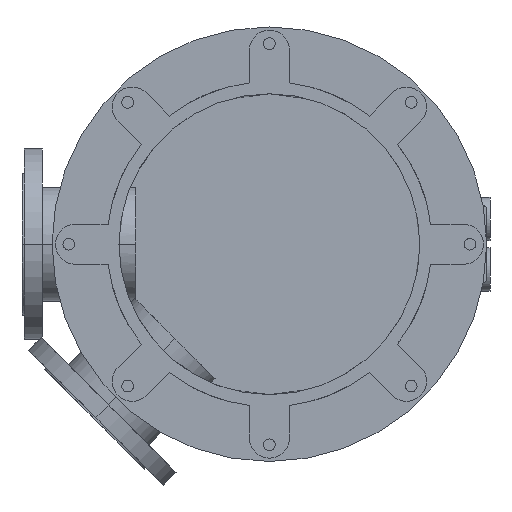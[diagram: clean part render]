
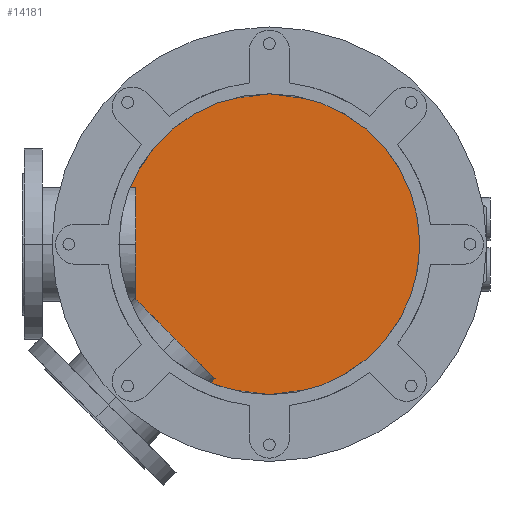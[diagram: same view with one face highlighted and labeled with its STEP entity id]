
A CAD part, front view. The second image highlights one B-rep face of the part: STEP entity #14181.
In plain terms, the highlighted planar face has unit normal (0, -1, 0).
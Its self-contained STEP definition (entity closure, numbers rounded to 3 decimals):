
#2810=CARTESIAN_POINT('',(0.,836.,0.));
#2811=DIRECTION('',(0.,-1.,0.));
#2812=DIRECTION('',(0.,0.,1.));
#2813=AXIS2_PLACEMENT_3D('',#2810,#2811,#2812);
#2984=CARTESIAN_POINT('',(0.,836.,0.));
#2985=DIRECTION('',(0.,-1.,0.));
#2986=DIRECTION('',(0.,0.,-1.));
#2987=AXIS2_PLACEMENT_3D('',#2984,#2985,#2986);
#9204=CARTESIAN_POINT('',(0.,836.,240.));
#9205=CARTESIAN_POINT('',(0.,836.,-240.));
#9206=VERTEX_POINT('',#9204);
#9207=VERTEX_POINT('',#9205);
#14171=CARTESIAN_POINT('',(0.,836.,0.));
#14172=DIRECTION('',(0.,1.,0.));
#14173=DIRECTION('',(0.,0.,-1.));
#14174=AXIS2_PLACEMENT_3D('',#14171,#14172,#14173);
#14175=PLANE('',#14174);
#14176=ORIENTED_EDGE('',*,*,#14149,.F.);
#14178=ORIENTED_EDGE('',*,*,#14177,.F.);
#14179=EDGE_LOOP('',(#14176,#14178));
#14180=FACE_OUTER_BOUND('',#14179,.F.);
#14181=ADVANCED_FACE('',(#14180),#14175,.F.);
#2814=CIRCLE('',#2813,240.);
#2988=CIRCLE('',#2987,240.);
#14149=EDGE_CURVE('',#9206,#9207,#2814,.T.);
#14177=EDGE_CURVE('',#9207,#9206,#2988,.T.);
